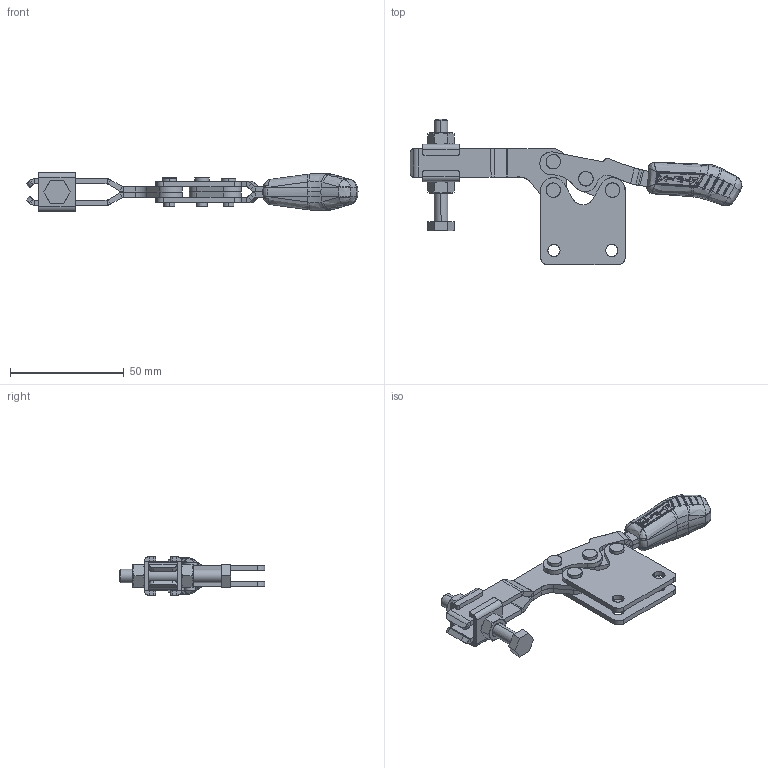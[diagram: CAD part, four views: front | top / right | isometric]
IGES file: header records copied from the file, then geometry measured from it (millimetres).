
Start section: SolidWorks IGES file using analytic representation for surfaces
Global section: file name: C:\Projetos\Grampos\KF-512\KF-512 R\KF-512 R.IGS; native system: SolidWorks 2013; preprocessor: SolidWorks 2013; author: Ricardo; date: 140818.093703; units: millimetre
Bounding box: 145.73 x 63.89 x 17 mm (x, y, z)
Surface area: 22940.3 mm2 (no closed solid volume)
Topology: 0 solids, 0 shells, 1073 faces, 11579 edges, 11548 vertices
Faces by surface type: bspline 583, revolution 490
